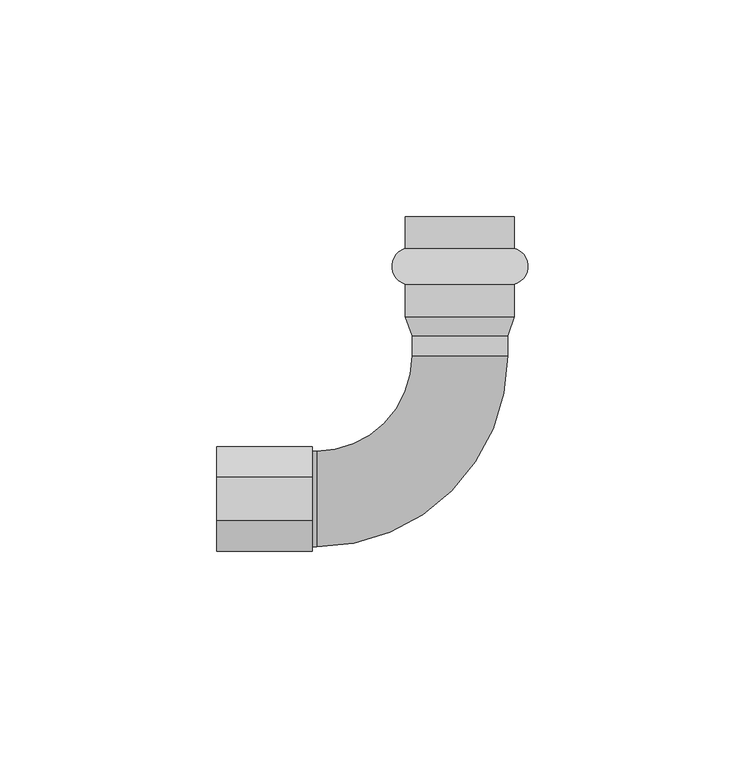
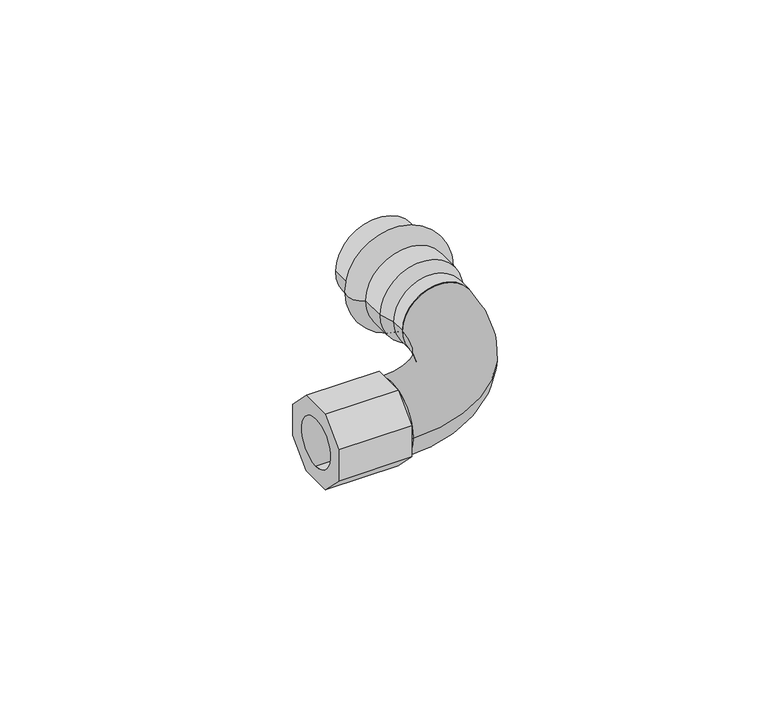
"""IFC4 building model written with IfcOpenShell, lengths in millimetres: valve geometry, Отвод_90°_с_переходом_на_внутреннюю_резьбу : Отвод_90°_с_переходом_на_внутреннюю_резьбу."""

from ifc_helpers import new_model, si_unit, point, frame, origin, origin_2d, place, context, project, spatial, polyline, circle_curve, ellipse_curve, trimmed, segment, composite_curve, outline, extrude, source, transform, mapped, element, save
from ifc_brep_helpers import plane_surface, cylinder_surface, revolved_surface, advanced_brep


def valve_aa5db36c(model_context):
    return source(origin(), model_context, "Body", "SolidModel", [
        extrude(outline(polyline([(4.9705627, -12.0), (-4.9705627, -12.0), (-12.0, -4.9705627), (-12.0, 4.9705627), (-4.9705627, 12.0), (4.9705627, 12.0), (12.0, 4.9705627), (12.0, -4.9705627), (4.9705627, -12.0)]), holes=[composite_curve([segment(trimmed(circle_curve(origin_2d(), 7.5), [point((0.0, 7.5))], [point((0.0, -7.5))], True, "CARTESIAN"), True, "CONTINUOUS"), segment(trimmed(circle_curve(origin_2d(), 7.5), [point((0.0, -7.5))], [point((0.0, 7.5))], True, "CARTESIAN"), True, "CONTINUOUS")], self_intersect=False)]), frame((-56.0, 0.0, 0.0), z_axis=(1.0, 0.0, 0.0), x_axis=(0.0, 1.0, 0.0)), (0.0, 0.0, 1.0), 22.0),
        advanced_brep(
        [(12.55, 57.73, 0.0), (-12.55, 57.73, 0.0), (-12.55, 65.0, 0.0), (12.55, 65.0, 0.0), (12.55, 49.47, 0.0), (-12.55, 49.47, 0.0), (12.55, 42.0, 0.0), (-12.55, 42.0, 0.0), (11.0, 37.6, 0.0), (-11.0, 37.6, 0.0), (11.0, 33.0, 0.0), (-11.0, 33.0, 0.0), (0.0, 33.0, 0.0), (0.0, 65.0, 0.0)],
        [
            (0, 1, circle_curve(frame((0.0, 57.73, 0.0), z_axis=(0.0, 1.0, 0.0), x_axis=(-1.0, 0.0, 0.0)), 12.55)),
            (1, 2),
            (2, 3, circle_curve(frame((0.0, 65.0, 0.0), z_axis=(0.0, -1.0, 0.0), x_axis=(-1.0, 0.0, 0.0)), 12.55)),
            (3, 0),
            (1, 0, circle_curve(frame((0.0, 57.73, 0.0), z_axis=(0.0, 1.0, 0.0), x_axis=(-1.0, 0.0, 0.0)), 12.55)),
            (3, 2, circle_curve(frame((0.0, 65.0, 0.0), z_axis=(0.0, -1.0, 0.0), x_axis=(-1.0, 0.0, 0.0)), 12.55)),
            (4, 5, circle_curve(frame((0.0, 49.47, 0.0), z_axis=(0.0, 1.0, 0.0), x_axis=(-1.0, 0.0, 0.0)), 12.55)),
            (5, 1, circle_curve(frame((-11.3504491, 53.6, 0.0), z_axis=(0.0, 0.0, -1.0), x_axis=(0.0, 1.0, 0.0)), 4.300677)),
            (0, 4, circle_curve(frame((11.3504491, 53.6, 0.0), z_axis=(0.0, 0.0, -1.0), x_axis=(0.0, 1.0, 0.0)), 4.300677)),
            (5, 4, circle_curve(frame((0.0, 49.47, 0.0), z_axis=(0.0, 1.0, 0.0), x_axis=(-1.0, 0.0, 0.0)), 12.55)),
            (6, 7, circle_curve(frame((0.0, 42.0, 0.0), z_axis=(0.0, 1.0, 0.0), x_axis=(-1.0, 0.0, 0.0)), 12.55)),
            (7, 5),
            (4, 6),
            (7, 6, circle_curve(frame((0.0, 42.0, 0.0), z_axis=(0.0, 1.0, 0.0), x_axis=(-1.0, 0.0, 0.0)), 12.55)),
            (8, 9, circle_curve(frame((0.0, 37.6, 0.0), z_axis=(0.0, 1.0, 0.0), x_axis=(-1.0, 0.0, 0.0)), 11.0)),
            (9, 7),
            (6, 8),
            (9, 8, circle_curve(frame((0.0, 37.6, 0.0), z_axis=(0.0, 1.0, 0.0), x_axis=(-1.0, 0.0, 0.0)), 11.0)),
            (10, 11, circle_curve(frame((0.0, 33.0, 0.0), z_axis=(0.0, 1.0, 0.0), x_axis=(-1.0, 0.0, 0.0)), 11.0)),
            (11, 9),
            (8, 10),
            (11, 10, circle_curve(frame((0.0, 33.0, 0.0), z_axis=(0.0, 1.0, 0.0), x_axis=(-1.0, 0.0, 0.0)), 11.0)),
            (12, 11),
            (10, 12),
            (2, 13),
            (13, 3),
        ],
        [
            cylinder_surface(frame((0.0, 2065.0, 0.0), z_axis=(0.0, -1.0, 0.0), x_axis=(-1.0, 0.0, 0.0)), 12.55),
            revolved_surface(trimmed(ellipse_curve(frame((-11.3504491, 53.6, 0.0), z_axis=(0.0, 0.0, 1.0), x_axis=(0.0, 1.0, 0.0)), 4.300677, 4.300677), [point((-12.55, 57.73, 0.0))], [point((-12.55, 49.47, 0.0))], True, "CARTESIAN"), (0.0, 2065.0, 0.0), (0.0, -1.0, 0.0)),
            revolved_surface(polyline([(-12.55, 42.0, 0.0), (-11.0, 37.6, 0.0)]), (0.0, 2065.0, 0.0), (0.0, -1.0, 0.0)),
            cylinder_surface(frame((0.0, 2065.0, 0.0), z_axis=(0.0, -1.0, 0.0), x_axis=(-1.0, 0.0, 0.0)), 11.0),
            plane_surface(frame((0.0, 33.0, 0.0), z_axis=(0.0, -1.0, 0.0), x_axis=(-1.0, 0.0, 0.0))),
            plane_surface(frame((0.0, 65.0, 0.0), z_axis=(0.0, 1.0, 0.0), x_axis=(-1.0, 0.0, 0.0))),
        ],
        [
            (0, [[1, 2, 3, 4]]),
            (0, [[5, -4, 6, -2]]),
            (1, [[7, 8, -1, 9]]),
            (1, [[10, -9, -5, -8]]),
            (0, [[11, 12, -7, 13]]),
            (0, [[14, -13, -10, -12]]),
            (2, [[15, 16, -11, 17]]),
            (2, [[18, -17, -14, -16]]),
            (3, [[19, 20, -15, 21]]),
            (3, [[22, -21, -18, -20]]),
            (4, [[23, -19, 24]]),
            (4, [[-24, -22, -23]]),
            (5, [[-3, 25, 26]]),
            (5, [[-6, -26, -25]]),
        ],
    ),
        advanced_brep(
        [(-33.0, -11.0, 0.0), (-33.0, 11.0, 0.0), (-33.0, 0.0, 0.0), (-34.0, -11.0, 0.0), (-34.0, 11.0, 0.0), (-34.0, 0.0, 0.0)],
        [
            (0, 1, circle_curve(frame((-33.0, 0.0, 0.0), z_axis=(1.0, 0.0, 0.0), x_axis=(0.0, 1.0, 0.0)), 11.0)),
            (1, 2),
            (2, 0),
            (1, 0, circle_curve(frame((-33.0, 0.0, 0.0), z_axis=(1.0, 0.0, 0.0), x_axis=(0.0, 1.0, 0.0)), 11.0)),
            (3, 4, circle_curve(frame((-34.0, 0.0, 0.0), z_axis=(1.0, 0.0, 0.0), x_axis=(0.0, 1.0, 0.0)), 11.0)),
            (4, 1),
            (0, 3),
            (4, 3, circle_curve(frame((-34.0, 0.0, 0.0), z_axis=(1.0, 0.0, 0.0), x_axis=(0.0, 1.0, 0.0)), 11.0)),
            (5, 4),
            (3, 5),
        ],
        [
            plane_surface(frame((-33.0, 0.0, 0.0), z_axis=(1.0, 0.0, 0.0), x_axis=(0.0, 1.0, 0.0))),
            cylinder_surface(frame((2000.0, 0.0, 0.0), z_axis=(-1.0, 0.0, 0.0), x_axis=(0.0, 1.0, 0.0)), 11.0),
            plane_surface(frame((-34.0, 0.0, 0.0), z_axis=(-1.0, 0.0, 0.0), x_axis=(0.0, 1.0, 0.0))),
        ],
        [
            (0, [[1, 2, 3]]),
            (0, [[4, -3, -2]]),
            (1, [[5, 6, -1, 7]]),
            (1, [[8, -7, -4, -6]]),
            (2, [[9, -5, 10]]),
            (2, [[-10, -8, -9]]),
        ],
    ),
        advanced_brep(
        [(-11.0, 33.0, 0.0), (11.0, 33.0, 0.0), (-33.0, 11.0, 0.0), (-33.0, -11.0, 0.0)],
        [
            (0, 1, circle_curve(frame((0.0, 33.0, 0.0), z_axis=(0.0, 1.0, 0.0), x_axis=(1.0, 0.0, 0.0)), 11.0)),
            (1, 0, circle_curve(frame((0.0, 33.0, 0.0), z_axis=(0.0, 1.0, 0.0), x_axis=(1.0, 0.0, 0.0)), 11.0)),
            (2, 3, circle_curve(frame((-33.0, 0.0, 0.0), z_axis=(-1.0, 0.0, 0.0), x_axis=(0.0, -1.0, 0.0)), 11.0)),
            (3, 2, circle_curve(frame((-33.0, 0.0, 0.0), z_axis=(-1.0, 0.0, 0.0), x_axis=(0.0, -1.0, 0.0)), 11.0)),
            (3, 1, circle_curve(frame((-33.0, 33.0, 0.0), z_axis=(0.0, 0.0, 1.0), x_axis=(1.0, 0.0, 0.0)), 44.0)),
            (0, 2, circle_curve(frame((-33.0, 33.0, 0.0), z_axis=(0.0, 0.0, -1.0), x_axis=(1.0, 0.0, 0.0)), 22.0)),
        ],
        [
            plane_surface(frame((0.0, 33.0, 0.0), z_axis=(0.0, 1.0, 0.0), x_axis=(0.0, 0.0, 1.0))),
            plane_surface(frame((-33.0, 0.0, 0.0), z_axis=(-1.0, 0.0, 0.0), x_axis=(0.0, 0.0, 1.0))),
            revolved_surface(trimmed(ellipse_curve(frame((0.0, 33.0, 0.0), z_axis=(0.0, 1.0, 0.0), x_axis=(1.0, 0.0, 0.0)), 11.0, 11.0), [point((-11.0, 33.0, 0.0))], [point((11.0, 33.0, 0.0))], True, "CARTESIAN"), (-33.0, 33.0, 0.0), (0.0, 0.0, -1.0)),
            revolved_surface(trimmed(ellipse_curve(frame((0.0, 33.0, 0.0), z_axis=(0.0, 1.0, 0.0), x_axis=(1.0, 0.0, 0.0)), 11.0, 11.0), [point((11.0, 33.0, 0.0))], [point((-11.0, 33.0, 0.0))], True, "CARTESIAN"), (-33.0, 33.0, 0.0), (0.0, 0.0, -1.0)),
        ],
        [
            (0, [[1, 2]]),
            (1, [[3, 4]]),
            (2, [[5, -1, 6, -4]]),
            (3, [[-6, -2, -5, -3]]),
        ],
    ),
    ])


if __name__ == "__main__":
    model = new_model("IFC4")
    model_context = context("Model", 3, world=origin())
    ifc_project = project(units=[si_unit("LENGTHUNIT", "METRE", prefix="MILLI")], contexts=[model_context])
    site = spatial("IfcSite", under=ifc_project)
    building = spatial("IfcBuilding", under=site)
    placement = place(None, origin())
    valve_shape = valve_aa5db36c(model_context)
    element("IfcValve", 1, ObjectType="Отвод_90°_с_переходом_на_внутреннюю_резьбу : Отвод_90°_с_переходом_на_внутреннюю_резьбу", at=placement, inside=building, context=model_context, shape_type="MappedRepresentation", body=[
        mapped(valve_shape, transform((0.0, 0.0, 0.0), x_axis=(1.0, 0.0, 0.0), y_axis=(0.0, 1.0, 0.0), z_axis=(0.0, 0.0, 1.0))),
    ])
    save(model, "model.ifc")
